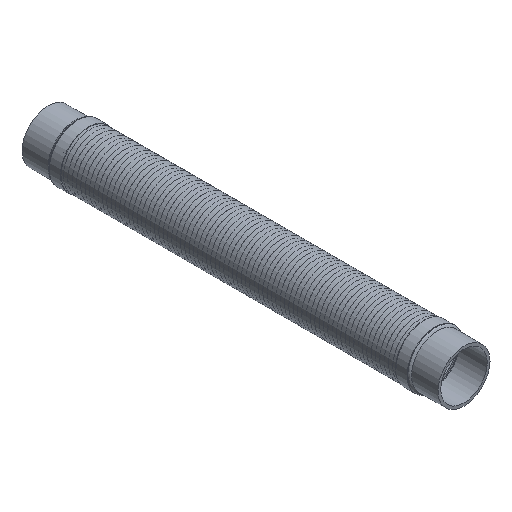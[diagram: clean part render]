
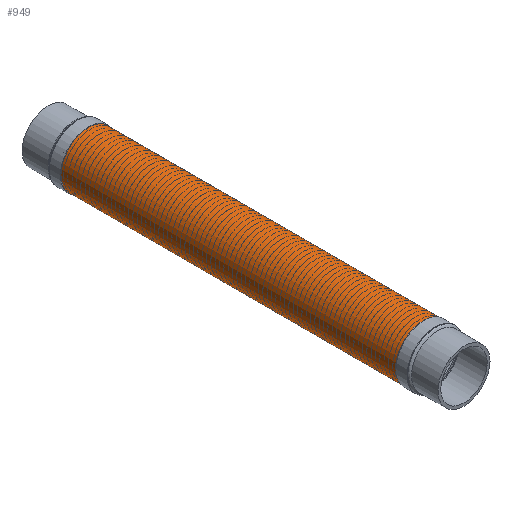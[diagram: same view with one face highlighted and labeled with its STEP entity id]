
A CAD part, isometric view. The second image highlights one B-rep face of the part: STEP entity #949.
In plain terms, the highlighted cylindrical face has radius 60.35 mm (diameter 120.701 mm), a full revolution.
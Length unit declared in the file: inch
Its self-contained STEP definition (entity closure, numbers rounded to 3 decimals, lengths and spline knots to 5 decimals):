
#915=CARTESIAN_POINT('',(-2.376,-15.5,0.));
#916=VERTEX_POINT('',#915);
#917=CARTESIAN_POINT('',(0.0,-15.5,0.0));
#918=DIRECTION('',(0.0,1.0,0.0));
#919=DIRECTION('',(1.0,0.0,0.0));
#920=AXIS2_PLACEMENT_3D('',#917,#918,#919);
#921=CIRCLE('',#920,2.376);
#922=EDGE_CURVE('',#916,#916,#921,.T.);
#930=CARTESIAN_POINT('',(0.0,0.0,0.0));
#931=DIRECTION('',(0.0,1.0,0.0));
#932=DIRECTION('',(1.0,0.0,0.0));
#933=AXIS2_PLACEMENT_3D('',#930,#931,#932);
#934=CYLINDRICAL_SURFACE('',#933,2.376);
#935=ORIENTED_EDGE('',*,*,#922,.T.);
#936=EDGE_LOOP('',(#935));
#937=FACE_OUTER_BOUND('',#936,.T.);
#938=CARTESIAN_POINT('',(-2.376,15.5,0.));
#939=VERTEX_POINT('',#938);
#940=CARTESIAN_POINT('',(0.0,15.5,0.0));
#941=DIRECTION('',(0.0,-1.0,0.0));
#942=DIRECTION('',(1.0,0.0,0.0));
#943=AXIS2_PLACEMENT_3D('',#940,#941,#942);
#944=CIRCLE('',#943,2.376);
#945=EDGE_CURVE('',#939,#939,#944,.T.);
#946=ORIENTED_EDGE('',*,*,#945,.T.);
#947=EDGE_LOOP('',(#946));
#948=FACE_BOUND('',#947,.T.);
#949=ADVANCED_FACE('',(#937,#948),#934,.T.);
